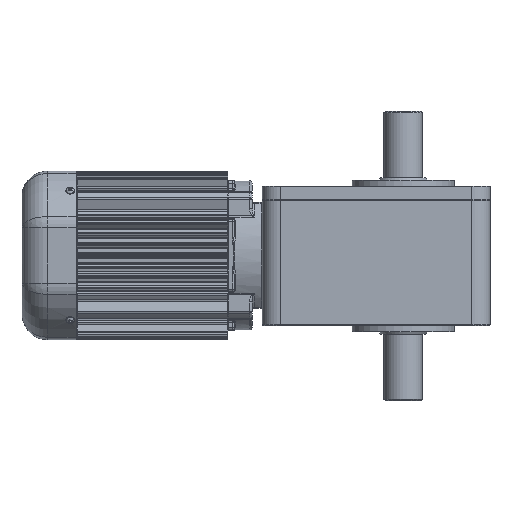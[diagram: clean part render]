
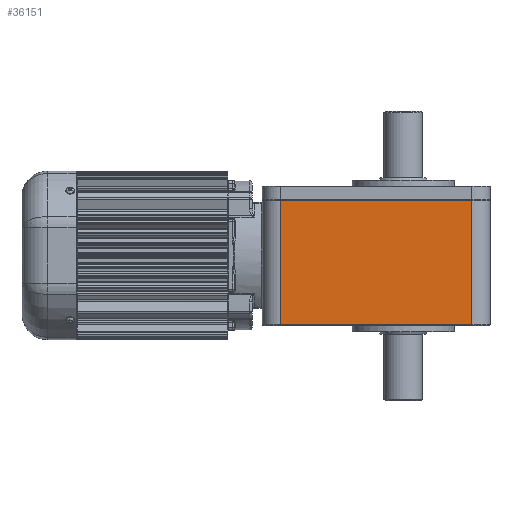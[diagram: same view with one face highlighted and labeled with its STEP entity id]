
A CAD part, front view. The second image highlights one B-rep face of the part: STEP entity #36151.
In plain terms, the highlighted planar face has unit normal (0, -1, 0).
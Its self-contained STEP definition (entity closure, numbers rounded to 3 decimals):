
#2630=LINE('',#63737,#5082);
#2634=LINE('',#63749,#5086);
#2635=LINE('',#63751,#5087);
#2636=LINE('',#63752,#5088);
#5082=VECTOR('',#49030,103.);
#5086=VECTOR('',#49044,159.);
#5087=VECTOR('',#49045,159.);
#5088=VECTOR('',#49046,103.);
#8230=FACE_OUTER_BOUND('',#10343,.T.);
#10343=EDGE_LOOP('',(#29384,#29385,#29386,#29387));
#15701=VERTEX_POINT('',#63731);
#15703=VERTEX_POINT('',#63735);
#15706=VERTEX_POINT('',#63748);
#15707=VERTEX_POINT('',#63750);
#20413=EDGE_CURVE('',#15703,#15701,#2630,.T.);
#20419=EDGE_CURVE('',#15701,#15706,#2634,.T.);
#20420=EDGE_CURVE('',#15707,#15703,#2635,.T.);
#20421=EDGE_CURVE('',#15707,#15706,#2636,.T.);
#29384=ORIENTED_EDGE('',*,*,#20419,.F.);
#29385=ORIENTED_EDGE('',*,*,#20413,.F.);
#29386=ORIENTED_EDGE('',*,*,#20420,.F.);
#29387=ORIENTED_EDGE('',*,*,#20421,.T.);
#32434=PLANE('',#39876);
#36151=ADVANCED_FACE('',(#8230),#32434,.T.);
#39876=AXIS2_PLACEMENT_3D('',#63747,#49042,#49043);
#49030=DIRECTION('',(0.,0.,-1.));
#49042=DIRECTION('center_axis',(0.,-1.,0.));
#49043=DIRECTION('ref_axis',(0.,0.,-1.));
#49044=DIRECTION('',(-1.,0.,0.));
#49045=DIRECTION('',(1.,0.,0.));
#49046=DIRECTION('',(0.,0.,-1.));
#63731=CARTESIAN_POINT('',(57.,-104.,-57.5));
#63735=CARTESIAN_POINT('',(57.,-104.,45.5));
#63737=CARTESIAN_POINT('',(57.,-104.,45.5));
#63747=CARTESIAN_POINT('Origin',(57.,-104.,0.));
#63748=CARTESIAN_POINT('',(-102.,-104.,-57.5));
#63749=CARTESIAN_POINT('',(57.,-104.,-57.5));
#63750=CARTESIAN_POINT('',(-102.,-104.,45.5));
#63751=CARTESIAN_POINT('',(-102.,-104.,45.5));
#63752=CARTESIAN_POINT('',(-102.,-104.,45.5));
